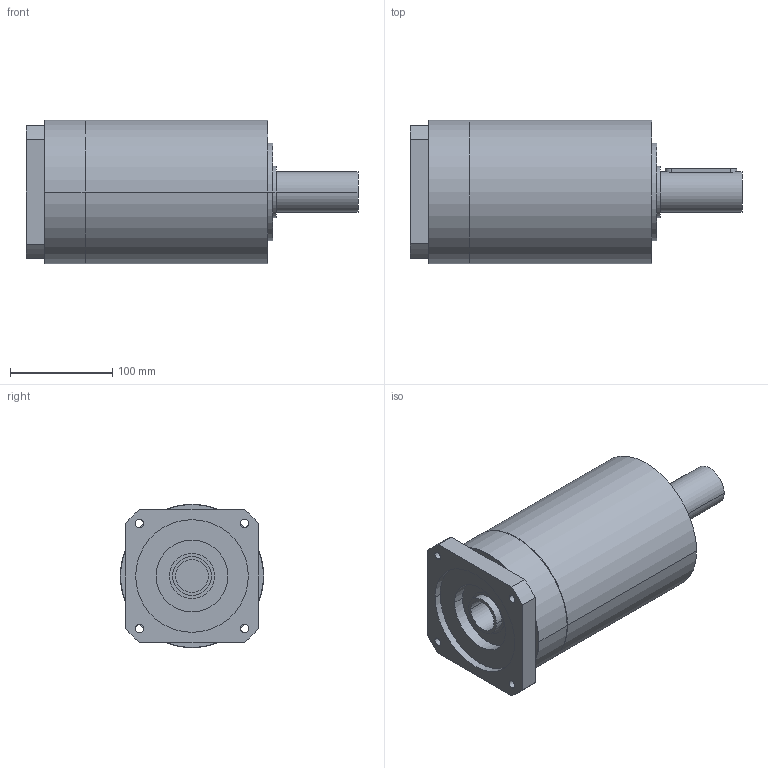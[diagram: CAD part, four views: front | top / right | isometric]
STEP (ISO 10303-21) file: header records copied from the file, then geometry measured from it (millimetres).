
FILE_DESCRIPTION(('CoCreate Modeling STEP Export'),'2;1');
FILE_NAME('GPR150_ig-9-12-16-20-28-35_40_B14_32_P08.stp','2014-08-19T17:04:02',(''),(''),'CoCreate Modeling STEP processor for AP214 (Solid Model)','CoCreate Modeling 16.00C 25-Feb-2009 (C) Parametric Technology GmbH','');
FILE_SCHEMA(('AUTOMOTIVE_DESIGN { 1 0 10303 214 1 1 1 1 }'));
Length unit declared in the file: millimetre
Products named in the file (2): GPR150_ig-9-12-16-20-28-35_40_B14_32_P08
Assembly tree (1 placements, depth 2):
  GPR150_ig-9-12-16-20-28-35_40_B14_32_P08
    GPR150_ig-9-12-16-20-28-35_40_B14_32_P08
Bounding box: 324 x 140 x 140 mm (x, y, z)
Volume: 3618221 mm3; surface area: 171944.3 mm2
Topology: 1 solids, 1 shells, 84 faces, 222 edges, 148 vertices
Faces by surface type: cylinder 44, plane 34, cone 6
Entity records: 2200 total; most frequent: ORIENTED_EDGE 440, CARTESIAN_POINT 415, DIRECTION 286, EDGE_CURVE 220, VERTEX_POINT 148, AXIS2_PLACEMENT_3D 107, EDGE_LOOP 102, FACE_OUTER_BOUND 84
